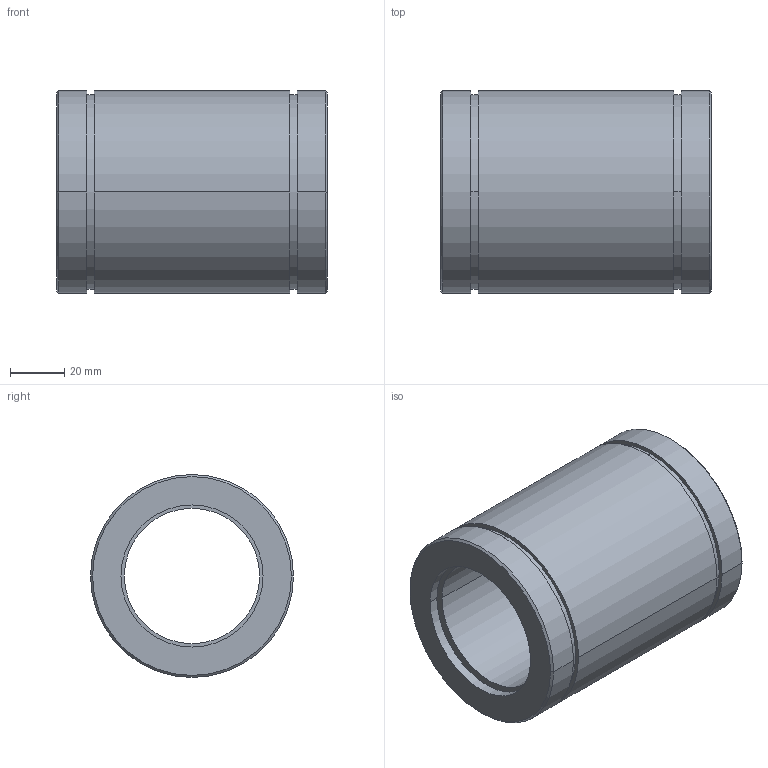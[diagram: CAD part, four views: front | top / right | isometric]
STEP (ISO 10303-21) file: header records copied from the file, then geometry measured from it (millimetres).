
FILE_DESCRIPTION (( 'STEP AP214' ), '1' );
FILE_NAME ('2.7027 Lineaarilaakeri LME50UU.STEP', '2024-06-17T10:30:54', ( '' ), ( '' ), 'SwSTEP 2.0', 'SolidWorks 2024', '' );
FILE_SCHEMA (( 'AUTOMOTIVE_DESIGN' ));
Length unit declared in the file: millimetre
Products named in the file (1): 2.7027 Lineaarilaakeri LME50UU
Bounding box: 100 x 75 x 75 mm (x, y, z)
Volume: 240204.7 mm3; surface area: 47142.9 mm2
Topology: 1 solids, 1 shells, 34 faces, 68 edges, 44 vertices
Faces by surface type: cylinder 20, plane 10, cone 4
Entity records: 931 total; most frequent: DIRECTION 182, CARTESIAN_POINT 147, ORIENTED_EDGE 136, AXIS2_PLACEMENT_3D 79, EDGE_CURVE 68, VERTEX_POINT 44, CIRCLE 44, EDGE_LOOP 44
